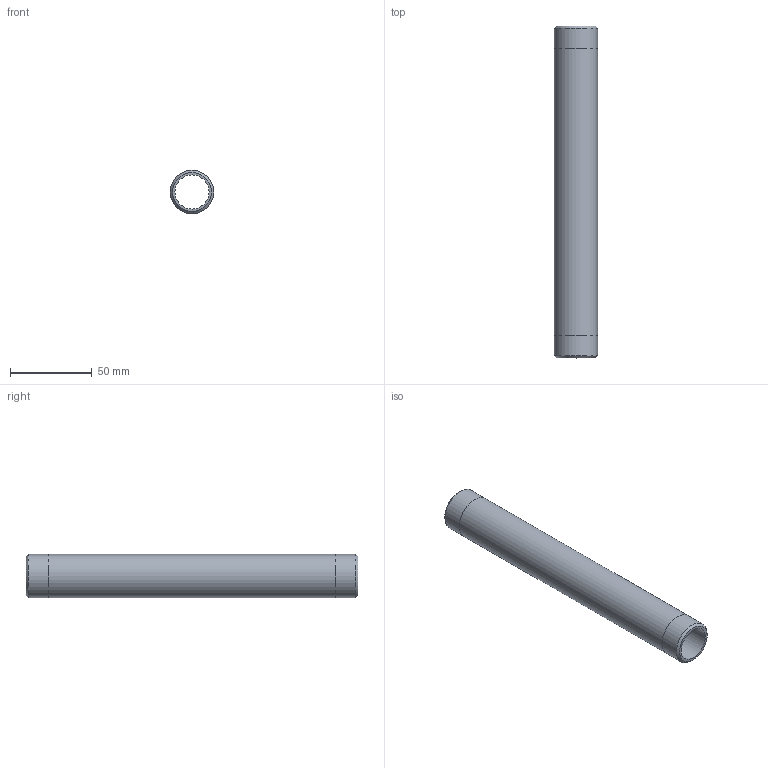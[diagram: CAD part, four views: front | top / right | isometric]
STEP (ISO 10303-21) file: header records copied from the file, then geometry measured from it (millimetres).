
FILE_DESCRIPTION(/* description */ (''),/* implementation_level */ '2;1');
FILE_NAME(/* name */ 'C:/Users/drich/Desktop/SSPN34-8 v1.step',/* time_stamp */ '2020-01-04T13:43:49-06:00',/* author */ (''),/* organization */ (''),/* preprocessor_version */ 'ST-DEVELOPER v18',/* originating_system */ 'Autodesk Translation Framework v8.12.0.6',/* authorisation */ '');
FILE_SCHEMA (('AUTOMOTIVE_DESIGN { 1 0 10303 214 3 1 1 }'));
Length unit declared in the file: inch
Products named in the file (1): SSPN34-8
Bounding box: 26.67 x 203.2 x 26.67 mm (x, y, z)
Volume: 43390.9 mm3; surface area: 30669.1 mm2
Topology: 1 solids, 1 shells, 10 faces, 24 edges, 18 vertices
Faces by surface type: cylinder 4, plane 4, cone 2
Full cylindrical faces by diameter (mm): 20.93 x1, 26.619 x2, 26.67 x1
Entity records: 353 total; most frequent: DIRECTION 64, CARTESIAN_POINT 53, ORIENTED_EDGE 48, AXIS2_PLACEMENT_3D 29, EDGE_CURVE 24, CIRCLE 18, VERTEX_POINT 18, EDGE_LOOP 14
